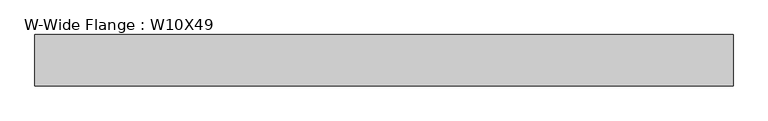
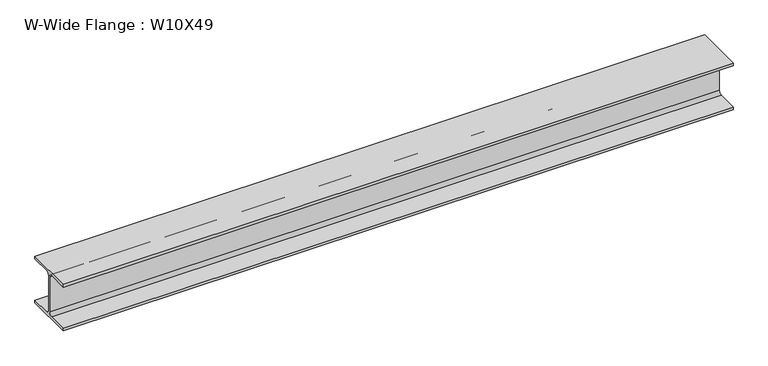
"""IFC4 building model written with IfcOpenShell, lengths in millimetres: beam geometry, W-Wide Flange : W10X49."""

from ifc_helpers import new_model, si_unit, point, frame, frame_2d, origin, place, context, project, spatial, polyline, circle_curve, trimmed, segment, composite_curve, outline, extrude, source, transform, mapped, element, save


def w_wide_flange_w10x49_01df90bb(model_context):
    return source(origin(), model_context, "Body", "SweptSolid", [
        extrude(outline(composite_curve([segment(polyline([(127.0, -112.776), (127.0, -127.0), (-127.0, -127.0), (-127.0, -112.776), (-21.844, -112.776)]), True, "CONTINUOUS"), segment(trimmed(circle_curve(frame_2d((-21.844, -95.25)), 17.526), [point((-21.844, -112.776))], [point((-4.318, -95.25))], True, "CARTESIAN"), True, "CONTINUOUS"), segment(polyline([(-4.318, -95.25), (-4.318, 95.25)]), True, "CONTINUOUS"), segment(trimmed(circle_curve(frame_2d((-21.844, 95.25)), 17.526), [point((-4.318, 95.25))], [point((-21.844, 112.776))], True, "CARTESIAN"), True, "CONTINUOUS"), segment(polyline([(-21.844, 112.776), (-127.0, 112.776), (-127.0, 127.0), (127.0, 127.0), (127.0, 112.776), (21.844, 112.776)]), True, "CONTINUOUS"), segment(trimmed(circle_curve(frame_2d((21.844, 95.25)), 17.526), [point((21.844, 112.776))], [point((4.318, 95.25))], True, "CARTESIAN"), True, "CONTINUOUS"), segment(polyline([(4.318, 95.25), (4.318, -95.25)]), True, "CONTINUOUS"), segment(trimmed(circle_curve(frame_2d((21.844, -95.25)), 17.526), [point((4.318, -95.25))], [point((21.844, -112.776))], True, "CARTESIAN"), True, "CONTINUOUS"), segment(polyline([(21.844, -112.776), (127.0, -112.776)]), True, "CONTINUOUS")], self_intersect=False)), frame((-1754.1378906, 0.0, 0.0), z_axis=(1.0, 0.0, 0.0), x_axis=(0.0, 1.0, 0.0)), (0.0, 0.0, 1.0), 3458.2695313),
    ])


if __name__ == "__main__":
    model = new_model("IFC4")
    model_context = context("Model", 3, world=origin())
    ifc_project = project(units=[si_unit("LENGTHUNIT", "METRE", prefix="MILLI")], contexts=[model_context])
    site = spatial("IfcSite", under=ifc_project)
    building = spatial("IfcBuilding", under=site)
    placement = place(None, origin())
    w_wide_flange_w10x49_shape = w_wide_flange_w10x49_01df90bb(model_context)
    element("IfcBeam", 1, ObjectType="W-Wide Flange : W10X49", at=placement, inside=building, context=model_context, shape_type="MappedRepresentation", body=[
        mapped(w_wide_flange_w10x49_shape, transform((0.0, 0.0, 0.0), x_axis=(1.0, 0.0, 0.0), y_axis=(0.0, 1.0, 0.0), z_axis=(0.0, 0.0, 1.0))),
    ])
    save(model, "model.ifc")
